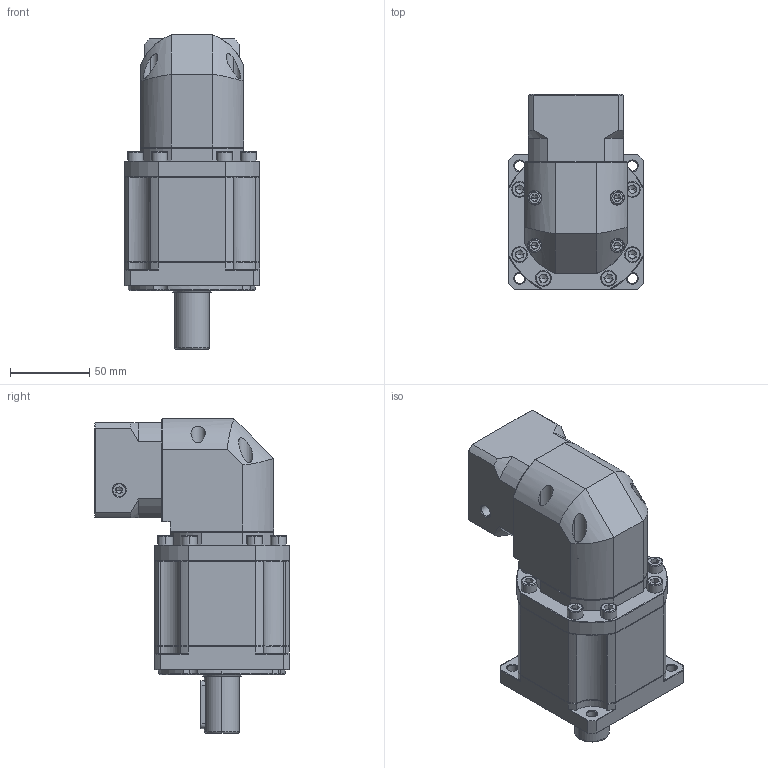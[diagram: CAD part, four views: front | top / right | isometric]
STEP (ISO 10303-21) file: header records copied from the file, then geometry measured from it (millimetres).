
FILE_DESCRIPTION (( 'STEP AP214' ), '1' );
FILE_NAME ('ZBR090-D22-L3-P2-8-30-46-M4.step', '2023-08-19T04:00:27', ( '' ), ( '' ), 'SwSTEP 2.0', 'SolidWorks 2016', '' );
FILE_SCHEMA (( 'AUTOMOTIVE_DESIGN' ));
Length unit declared in the file: millimetre
Products named in the file (1): ZBR090-D22-L3-P2-8-30-46-M4
Bounding box: 85 x 122.7 x 198 mm (x, y, z)
Volume: 930815.8 mm3; surface area: 107181.2 mm2
Topology: 5 solids, 5 shells, 2481 faces, 6616 edges, 4242 vertices
Faces by surface type: plane 1176, bspline 490, cylinder 429, cone 366, torus 20
Entity records: 147331 total; most frequent: CARTESIAN_POINT 62046, ORIENTED_EDGE 13156, DIRECTION 10330, EDGE_CURVE 6578, VERTEX_POINT 4242, LINE 4012, VECTOR 4012, AXIS2_PLACEMENT_3D 3159
